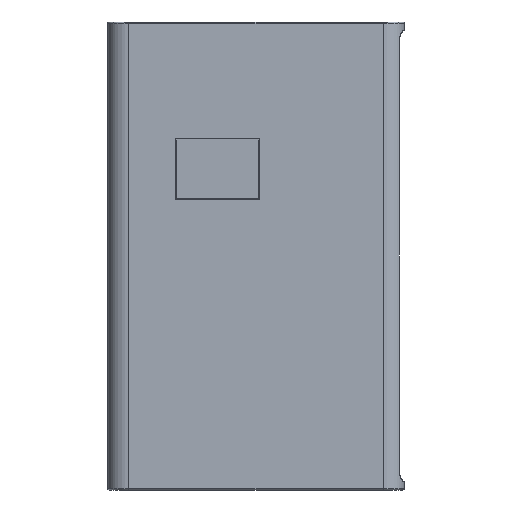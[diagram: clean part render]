
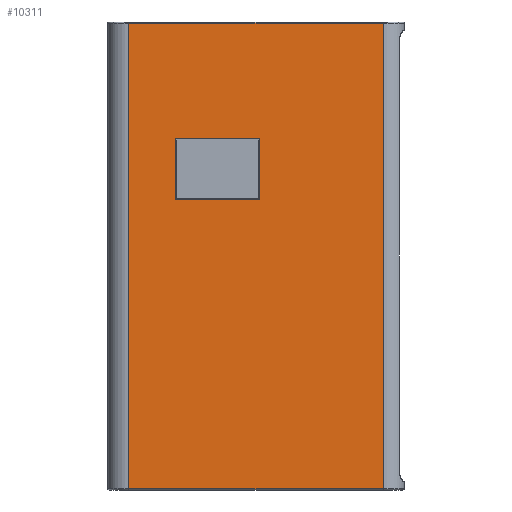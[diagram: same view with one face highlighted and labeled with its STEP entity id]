
A CAD part, left-side view. The second image highlights one B-rep face of the part: STEP entity #10311.
In plain terms, the highlighted planar face has unit normal (-1, 0, 0).
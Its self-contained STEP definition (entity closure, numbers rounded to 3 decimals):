
#5734 = CYLINDRICAL_SURFACE('',#5735,7.);
#5735 = AXIS2_PLACEMENT_3D('',#5736,#5737,#5738);
#5736 = CARTESIAN_POINT('',(7.,7.,0.));
#5737 = DIRECTION('',(0.,0.,1.));
#5738 = DIRECTION('',(-1.,-0.,0.));
#7324 = PLANE('',#7325);
#7325 = AXIS2_PLACEMENT_3D('',#7326,#7327,#7328);
#7326 = CARTESIAN_POINT('',(0.15,77.,98.35));
#7327 = DIRECTION('',(0.707,0.,-0.707
    ));
#7328 = DIRECTION('',(0.,-1.,0.));
#7378 = PLANE('',#7379);
#7379 = AXIS2_PLACEMENT_3D('',#7380,#7381,#7382);
#7380 = CARTESIAN_POINT('',(0.15,77.15,98.5));
#7381 = DIRECTION('',(-0.707,-0.707,0.
    ));
#7382 = DIRECTION('',(0.,0.,1.));
#7432 = PLANE('',#7433);
#7433 = AXIS2_PLACEMENT_3D('',#7434,#7435,#7436);
#7434 = CARTESIAN_POINT('',(0.15,48.85,98.5));
#7435 = DIRECTION('',(0.707,-0.707,0.
    ));
#7436 = DIRECTION('',(0.,0.,1.));
#7484 = PLANE('',#7485);
#7485 = AXIS2_PLACEMENT_3D('',#7486,#7487,#7488);
#7486 = CARTESIAN_POINT('',(0.15,77.,118.65));
#7487 = DIRECTION('',(-0.707,0.,-0.707
    ));
#7488 = DIRECTION('',(0.,-1.,0.));
#7605 = CYLINDRICAL_SURFACE('',#7606,0.5);
#7606 = AXIS2_PLACEMENT_3D('',#7607,#7608,#7609);
#7607 = CARTESIAN_POINT('',(0.5,93.,157.5));
#7608 = DIRECTION('',(0.,-1.,-0.));
#7609 = DIRECTION('',(0.,0.,1.));
#8325 = VERTEX_POINT('',#8326);
#8326 = CARTESIAN_POINT('',(0.,7.,157.5));
#8348 = EDGE_CURVE('',#8349,#8325,#8351,.T.);
#8349 = VERTEX_POINT('',#8350);
#8350 = CARTESIAN_POINT('',(0.,7.,0.5));
#8351 = SURFACE_CURVE('',#8352,(#8356,#8363),.PCURVE_S1.);
#8352 = LINE('',#8353,#8354);
#8353 = CARTESIAN_POINT('',(0.,7.,0.));
#8354 = VECTOR('',#8355,1.);
#8355 = DIRECTION('',(0.,0.,1.));
#8356 = PCURVE('',#5734,#8357);
#8357 = DEFINITIONAL_REPRESENTATION('',(#8358),#8362);
#8358 = LINE('',#8359,#8360);
#8359 = CARTESIAN_POINT('',(0.,0.));
#8360 = VECTOR('',#8361,1.);
#8361 = DIRECTION('',(0.,1.));
#8362 = ( GEOMETRIC_REPRESENTATION_CONTEXT(2)
PARAMETRIC_REPRESENTATION_CONTEXT() REPRESENTATION_CONTEXT('2D SPACE',''
  ) );
#8363 = PCURVE('',#8364,#8369);
#8364 = PLANE('',#8365);
#8365 = AXIS2_PLACEMENT_3D('',#8366,#8367,#8368);
#8366 = CARTESIAN_POINT('',(0.,0.,0.));
#8367 = DIRECTION('',(1.,0.,-0.));
#8368 = DIRECTION('',(0.,0.,1.));
#8369 = DEFINITIONAL_REPRESENTATION('',(#8370),#8374);
#8370 = LINE('',#8371,#8372);
#8371 = CARTESIAN_POINT('',(0.,-7.));
#8372 = VECTOR('',#8373,1.);
#8373 = DIRECTION('',(1.,0.));
#8374 = ( GEOMETRIC_REPRESENTATION_CONTEXT(2)
PARAMETRIC_REPRESENTATION_CONTEXT() REPRESENTATION_CONTEXT('2D SPACE',''
  ) );
#8531 = VERTEX_POINT('',#8532);
#8532 = CARTESIAN_POINT('',(0.,77.3,98.2));
#8555 = VERTEX_POINT('',#8556);
#8556 = CARTESIAN_POINT('',(0.,48.7,98.2));
#8577 = EDGE_CURVE('',#8531,#8555,#8578,.T.);
#8578 = SURFACE_CURVE('',#8579,(#8583,#8590),.PCURVE_S1.);
#8579 = LINE('',#8580,#8581);
#8580 = CARTESIAN_POINT('',(0.,77.,98.2));
#8581 = VECTOR('',#8582,1.);
#8582 = DIRECTION('',(0.,-1.,0.));
#8583 = PCURVE('',#7324,#8584);
#8584 = DEFINITIONAL_REPRESENTATION('',(#8585),#8589);
#8585 = LINE('',#8586,#8587);
#8586 = CARTESIAN_POINT('',(0.,0.212));
#8587 = VECTOR('',#8588,1.);
#8588 = DIRECTION('',(1.,0.));
#8589 = ( GEOMETRIC_REPRESENTATION_CONTEXT(2)
PARAMETRIC_REPRESENTATION_CONTEXT() REPRESENTATION_CONTEXT('2D SPACE',''
  ) );
#8590 = PCURVE('',#8364,#8591);
#8591 = DEFINITIONAL_REPRESENTATION('',(#8592),#8596);
#8592 = LINE('',#8593,#8594);
#8593 = CARTESIAN_POINT('',(98.2,-77.));
#8594 = VECTOR('',#8595,1.);
#8595 = DIRECTION('',(0.,1.));
#8596 = ( GEOMETRIC_REPRESENTATION_CONTEXT(2)
PARAMETRIC_REPRESENTATION_CONTEXT() REPRESENTATION_CONTEXT('2D SPACE',''
  ) );
#8604 = VERTEX_POINT('',#8605);
#8605 = CARTESIAN_POINT('',(0.,77.3,118.8));
#8626 = EDGE_CURVE('',#8531,#8604,#8627,.T.);
#8627 = SURFACE_CURVE('',#8628,(#8632,#8639),.PCURVE_S1.);
#8628 = LINE('',#8629,#8630);
#8629 = CARTESIAN_POINT('',(0.,77.3,98.5));
#8630 = VECTOR('',#8631,1.);
#8631 = DIRECTION('',(0.,0.,1.));
#8632 = PCURVE('',#7378,#8633);
#8633 = DEFINITIONAL_REPRESENTATION('',(#8634),#8638);
#8634 = LINE('',#8635,#8636);
#8635 = CARTESIAN_POINT('',(0.,0.212));
#8636 = VECTOR('',#8637,1.);
#8637 = DIRECTION('',(1.,0.));
#8638 = ( GEOMETRIC_REPRESENTATION_CONTEXT(2)
PARAMETRIC_REPRESENTATION_CONTEXT() REPRESENTATION_CONTEXT('2D SPACE',''
  ) );
#8639 = PCURVE('',#8364,#8640);
#8640 = DEFINITIONAL_REPRESENTATION('',(#8641),#8645);
#8641 = LINE('',#8642,#8643);
#8642 = CARTESIAN_POINT('',(98.5,-77.3));
#8643 = VECTOR('',#8644,1.);
#8644 = DIRECTION('',(1.,0.));
#8645 = ( GEOMETRIC_REPRESENTATION_CONTEXT(2)
PARAMETRIC_REPRESENTATION_CONTEXT() REPRESENTATION_CONTEXT('2D SPACE',''
  ) );
#8653 = VERTEX_POINT('',#8654);
#8654 = CARTESIAN_POINT('',(0.,48.7,118.8));
#8675 = EDGE_CURVE('',#8555,#8653,#8676,.T.);
#8676 = SURFACE_CURVE('',#8677,(#8681,#8688),.PCURVE_S1.);
#8677 = LINE('',#8678,#8679);
#8678 = CARTESIAN_POINT('',(0.,48.7,98.5));
#8679 = VECTOR('',#8680,1.);
#8680 = DIRECTION('',(0.,0.,1.));
#8681 = PCURVE('',#7432,#8682);
#8682 = DEFINITIONAL_REPRESENTATION('',(#8683),#8687);
#8683 = LINE('',#8684,#8685);
#8684 = CARTESIAN_POINT('',(0.,0.212));
#8685 = VECTOR('',#8686,1.);
#8686 = DIRECTION('',(1.,0.));
#8687 = ( GEOMETRIC_REPRESENTATION_CONTEXT(2)
PARAMETRIC_REPRESENTATION_CONTEXT() REPRESENTATION_CONTEXT('2D SPACE',''
  ) );
#8688 = PCURVE('',#8364,#8689);
#8689 = DEFINITIONAL_REPRESENTATION('',(#8690),#8694);
#8690 = LINE('',#8691,#8692);
#8691 = CARTESIAN_POINT('',(98.5,-48.7));
#8692 = VECTOR('',#8693,1.);
#8693 = DIRECTION('',(1.,0.));
#8694 = ( GEOMETRIC_REPRESENTATION_CONTEXT(2)
PARAMETRIC_REPRESENTATION_CONTEXT() REPRESENTATION_CONTEXT('2D SPACE',''
  ) );
#8702 = EDGE_CURVE('',#8604,#8653,#8703,.T.);
#8703 = SURFACE_CURVE('',#8704,(#8708,#8715),.PCURVE_S1.);
#8704 = LINE('',#8705,#8706);
#8705 = CARTESIAN_POINT('',(0.,77.,118.8));
#8706 = VECTOR('',#8707,1.);
#8707 = DIRECTION('',(0.,-1.,0.));
#8708 = PCURVE('',#7484,#8709);
#8709 = DEFINITIONAL_REPRESENTATION('',(#8710),#8714);
#8710 = LINE('',#8711,#8712);
#8711 = CARTESIAN_POINT('',(0.,0.212));
#8712 = VECTOR('',#8713,1.);
#8713 = DIRECTION('',(1.,0.));
#8714 = ( GEOMETRIC_REPRESENTATION_CONTEXT(2)
PARAMETRIC_REPRESENTATION_CONTEXT() REPRESENTATION_CONTEXT('2D SPACE',''
  ) );
#8715 = PCURVE('',#8364,#8716);
#8716 = DEFINITIONAL_REPRESENTATION('',(#8717),#8721);
#8717 = LINE('',#8718,#8719);
#8718 = CARTESIAN_POINT('',(118.8,-77.));
#8719 = VECTOR('',#8720,1.);
#8720 = DIRECTION('',(0.,1.));
#8721 = ( GEOMETRIC_REPRESENTATION_CONTEXT(2)
PARAMETRIC_REPRESENTATION_CONTEXT() REPRESENTATION_CONTEXT('2D SPACE',''
  ) );
#8929 = VERTEX_POINT('',#8930);
#8930 = CARTESIAN_POINT('',(0.,93.,157.5));
#8965 = CYLINDRICAL_SURFACE('',#8966,7.);
#8966 = AXIS2_PLACEMENT_3D('',#8967,#8968,#8969);
#8967 = CARTESIAN_POINT('',(7.,93.,0.));
#8968 = DIRECTION('',(0.,0.,1.));
#8969 = DIRECTION('',(-1.,-0.,0.));
#9007 = EDGE_CURVE('',#8929,#8325,#9008,.T.);
#9008 = SURFACE_CURVE('',#9009,(#9013,#9020),.PCURVE_S1.);
#9009 = LINE('',#9010,#9011);
#9010 = CARTESIAN_POINT('',(0.,93.,157.5));
#9011 = VECTOR('',#9012,1.);
#9012 = DIRECTION('',(0.,-1.,-0.));
#9013 = PCURVE('',#7605,#9014);
#9014 = DEFINITIONAL_REPRESENTATION('',(#9015),#9019);
#9015 = LINE('',#9016,#9017);
#9016 = CARTESIAN_POINT('',(1.571,0.));
#9017 = VECTOR('',#9018,1.);
#9018 = DIRECTION('',(0.,1.));
#9019 = ( GEOMETRIC_REPRESENTATION_CONTEXT(2)
PARAMETRIC_REPRESENTATION_CONTEXT() REPRESENTATION_CONTEXT('2D SPACE',''
  ) );
#9020 = PCURVE('',#8364,#9021);
#9021 = DEFINITIONAL_REPRESENTATION('',(#9022),#9026);
#9022 = LINE('',#9023,#9024);
#9023 = CARTESIAN_POINT('',(157.5,-93.));
#9024 = VECTOR('',#9025,1.);
#9025 = DIRECTION('',(0.,1.));
#9026 = ( GEOMETRIC_REPRESENTATION_CONTEXT(2)
PARAMETRIC_REPRESENTATION_CONTEXT() REPRESENTATION_CONTEXT('2D SPACE',''
  ) );
#10275 = CYLINDRICAL_SURFACE('',#10276,0.5);
#10276 = AXIS2_PLACEMENT_3D('',#10277,#10278,#10279);
#10277 = CARTESIAN_POINT('',(0.5,7.,0.5));
#10278 = DIRECTION('',(-0.,1.,0.));
#10279 = DIRECTION('',(-1.,-0.,0.));
#10311 = ADVANCED_FACE('',(#10312,#10318),#8364,.F.);
#10312 = FACE_BOUND('',#10313,.F.);
#10313 = EDGE_LOOP('',(#10314,#10315,#10316,#10317));
#10314 = ORIENTED_EDGE('',*,*,#8577,.T.);
#10315 = ORIENTED_EDGE('',*,*,#8675,.T.);
#10316 = ORIENTED_EDGE('',*,*,#8702,.F.);
#10317 = ORIENTED_EDGE('',*,*,#8626,.F.);
#10318 = FACE_BOUND('',#10319,.F.);
#10319 = EDGE_LOOP('',(#10320,#10321,#10344,#10365));
#10320 = ORIENTED_EDGE('',*,*,#8348,.F.);
#10321 = ORIENTED_EDGE('',*,*,#10322,.T.);
#10322 = EDGE_CURVE('',#8349,#10323,#10325,.T.);
#10323 = VERTEX_POINT('',#10324);
#10324 = CARTESIAN_POINT('',(0.,93.,0.5));
#10325 = SURFACE_CURVE('',#10326,(#10330,#10337),.PCURVE_S1.);
#10326 = LINE('',#10327,#10328);
#10327 = CARTESIAN_POINT('',(0.,7.,0.5));
#10328 = VECTOR('',#10329,1.);
#10329 = DIRECTION('',(-0.,1.,0.));
#10330 = PCURVE('',#8364,#10331);
#10331 = DEFINITIONAL_REPRESENTATION('',(#10332),#10336);
#10332 = LINE('',#10333,#10334);
#10333 = CARTESIAN_POINT('',(0.5,-7.));
#10334 = VECTOR('',#10335,1.);
#10335 = DIRECTION('',(0.,-1.));
#10336 = ( GEOMETRIC_REPRESENTATION_CONTEXT(2)
PARAMETRIC_REPRESENTATION_CONTEXT() REPRESENTATION_CONTEXT('2D SPACE',''
  ) );
#10337 = PCURVE('',#10275,#10338);
#10338 = DEFINITIONAL_REPRESENTATION('',(#10339),#10343);
#10339 = LINE('',#10340,#10341);
#10340 = CARTESIAN_POINT('',(-0.,0.));
#10341 = VECTOR('',#10342,1.);
#10342 = DIRECTION('',(-0.,1.));
#10343 = ( GEOMETRIC_REPRESENTATION_CONTEXT(2)
PARAMETRIC_REPRESENTATION_CONTEXT() REPRESENTATION_CONTEXT('2D SPACE',''
  ) );
#10344 = ORIENTED_EDGE('',*,*,#10345,.T.);
#10345 = EDGE_CURVE('',#10323,#8929,#10346,.T.);
#10346 = SURFACE_CURVE('',#10347,(#10351,#10358),.PCURVE_S1.);
#10347 = LINE('',#10348,#10349);
#10348 = CARTESIAN_POINT('',(0.,93.,0.));
#10349 = VECTOR('',#10350,1.);
#10350 = DIRECTION('',(0.,0.,1.));
#10351 = PCURVE('',#8364,#10352);
#10352 = DEFINITIONAL_REPRESENTATION('',(#10353),#10357);
#10353 = LINE('',#10354,#10355);
#10354 = CARTESIAN_POINT('',(0.,-93.));
#10355 = VECTOR('',#10356,1.);
#10356 = DIRECTION('',(1.,0.));
#10357 = ( GEOMETRIC_REPRESENTATION_CONTEXT(2)
PARAMETRIC_REPRESENTATION_CONTEXT() REPRESENTATION_CONTEXT('2D SPACE',''
  ) );
#10358 = PCURVE('',#8965,#10359);
#10359 = DEFINITIONAL_REPRESENTATION('',(#10360),#10364);
#10360 = LINE('',#10361,#10362);
#10361 = CARTESIAN_POINT('',(-0.,0.));
#10362 = VECTOR('',#10363,1.);
#10363 = DIRECTION('',(-0.,1.));
#10364 = ( GEOMETRIC_REPRESENTATION_CONTEXT(2)
PARAMETRIC_REPRESENTATION_CONTEXT() REPRESENTATION_CONTEXT('2D SPACE',''
  ) );
#10365 = ORIENTED_EDGE('',*,*,#9007,.T.);
